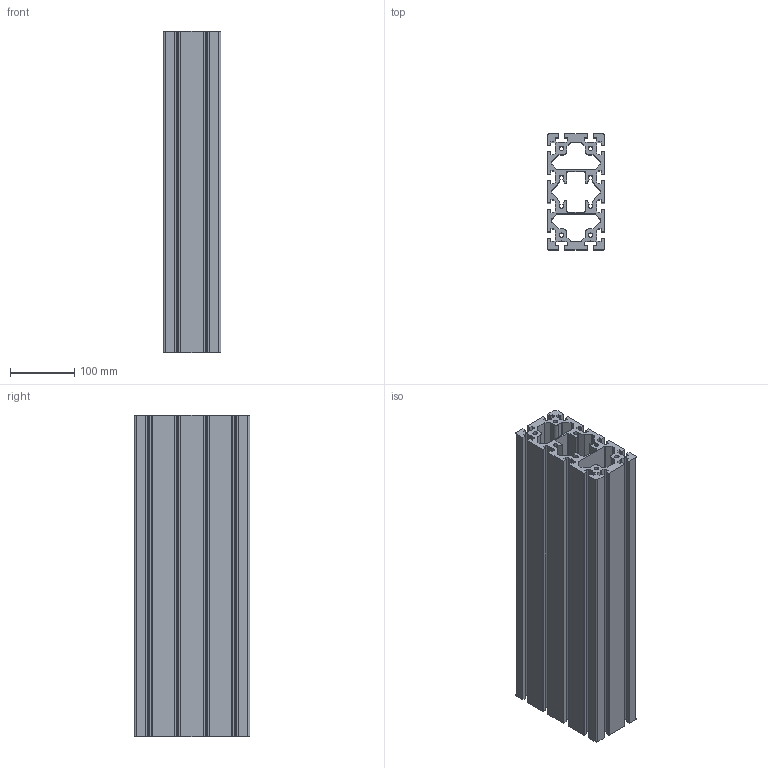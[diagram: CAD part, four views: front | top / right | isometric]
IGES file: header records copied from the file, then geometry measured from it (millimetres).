
Start section: SolidWorks IGES file using analytic representation for surfaces
Global section: file name: C:\Documents and Settings\Administrator\デスクトップ\指定保存後4回目\SolidWorks\SF\SF40・45\Frame\SFF-914.IGS,41HSolidWorks; native system: 2006 by SolidWorks Corporation; preprocessor: SolidWorks 2006 by SolidWorks Corporation; author: Administrator; date: 061218.105020; units: millimetre
Bounding box: 90 x 180 x 500 mm (x, y, z)
Volume: 3165312.1 mm3; surface area: 949296.9 mm2
Topology: 1 solids, 1 shells, 326 faces, 972 edges, 648 vertices
Faces by surface type: plane 214, revolution 112
